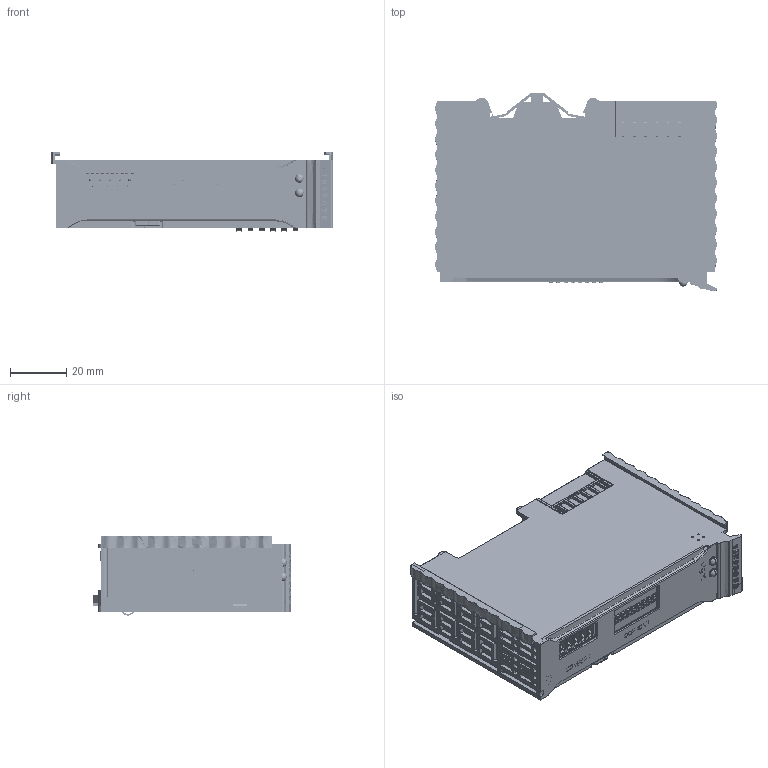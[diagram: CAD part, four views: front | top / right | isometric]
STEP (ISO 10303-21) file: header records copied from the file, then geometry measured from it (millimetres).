
FILE_DESCRIPTION((''),'2;1');
FILE_NAME('00-ALL_ASM','2025-02-07T',('18137'),(''),'CREO PARAMETRIC BY PTC INC, 2016050','CREO PARAMETRIC BY PTC INC, 2016050','');
FILE_SCHEMA(('CONFIG_CONTROL_DESIGN'));
Products named in the file (74): ZBA_A_1; A694B_2SYG_S530-E2_A_1; MC-PA3_5H05-0002_1_1__A_1; XB-DA-08BLP_2__A_1; 11_A_1; BREP_1-1031_1; BREP_2-1032_1; BREP_3-1033_1; BREP_4-1034_1; BREP_5-1035_1; BREP_6_1; BREP_7_1; _X2_56FE5757_X0__01_A_ASM_1_ASM; PRT0001_A_ASM_1_ASM; YJ_ALL_ASM_A_ASM_1_ASM; BREP_1-984_1; BREP_2-985_1; BREP_3-986_1; BREP_4-987_1; BREP_5-988_1; BREP_138_1; BREP_137_1; BREP_136_1; BREP_135_1; BREP_134_1; BREP_133_1; BREP_12_1; BREP_13_1; BREP_14_1; BREP_15_1; BREP_16_1; BREP_17_1; BREP_18_1; BREP_19_1; BREP_20_1; BREP_21_1; BREP_22_1; BREP_23_1; BREP_24_1; BREP_25_1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
Assembly tree (73 placements, depth 6):
  00-ALL_ASM
    ID_ASM
      YJ_ALL_ASM_A_ASM_1_ASM
        ZBA_A_1
        A694B_2SYG_S530-E2_A_1
        MC-PA3_5H05-0002_1_1__A_1
        XB-DA-08BLP_2__A_1
        11_A_1
        PRT0001_A_ASM_1_ASM
          _X2_56FE5757_X0__01_A_ASM_1_ASM
            BREP_1-1031_1
            BREP_2-1032_1
            BREP_3-1033_1
            BREP_4-1034_1
            BREP_5-1035_1
            BREP_6_1
            BREP_7_1
      BREP_1-984_1
      BREP_2-985_1
      BREP_3-986_1
      BREP_4-987_1
      BREP_5-988_1
      BREP_138_1
      BREP_137_1
      BREP_136_1
      BREP_135_1
      BREP_134_1
      BREP_133_1
      BREP_12_1
      BREP_13_1
      BREP_14_1
      BREP_15_1
      BREP_16_1
      BREP_17_1
      BREP_18_1
      BREP_19_1
      BREP_20_1
      BREP_21_1
      BREP_22_1
      BREP_23_1
      BREP_24_1
      BREP_25_1
      BREP_26_1
      BREP_27_1
      BREP_64-1011_1
      BREP_63-1012_1
      BREP_62-1013_1
      BREP_61-1014_1
      BREP_60-1015_1
      BREP_59-1016_1
      BREP_58-1017_1
      BREP_58-1018_1
      BREP_59-1019_1
      BREP_60-1020_1
      BREP_61-1021_1
      BREP_62-1022_1
      BREP_63-1023_1
      BREP_64-1024_1
      BREP_42_1
    YJ_ALL_ASM
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Bounding box: 100.2 x 70.47 x 28.09 mm (x, y, z)
Volume: 183985.7 mm3; surface area: 132933.4 mm2
Topology: 64 solids, 70 shells, 9829 faces, 28169 edges, 18524 vertices
Faces by surface type: plane 7310, cylinder 1320, extrusion 549, bspline 349, cone 229, torus 50, sphere 22
Entity records: 345292 total; most frequent: CARTESIAN_POINT 88891, ORIENTED_EDGE 56294, DIRECTION 48177, EDGE_CURVE 28147, VECTOR 22449, LINE 21900, VERTEX_POINT 18524, AXIS2_PLACEMENT_3D 12864
